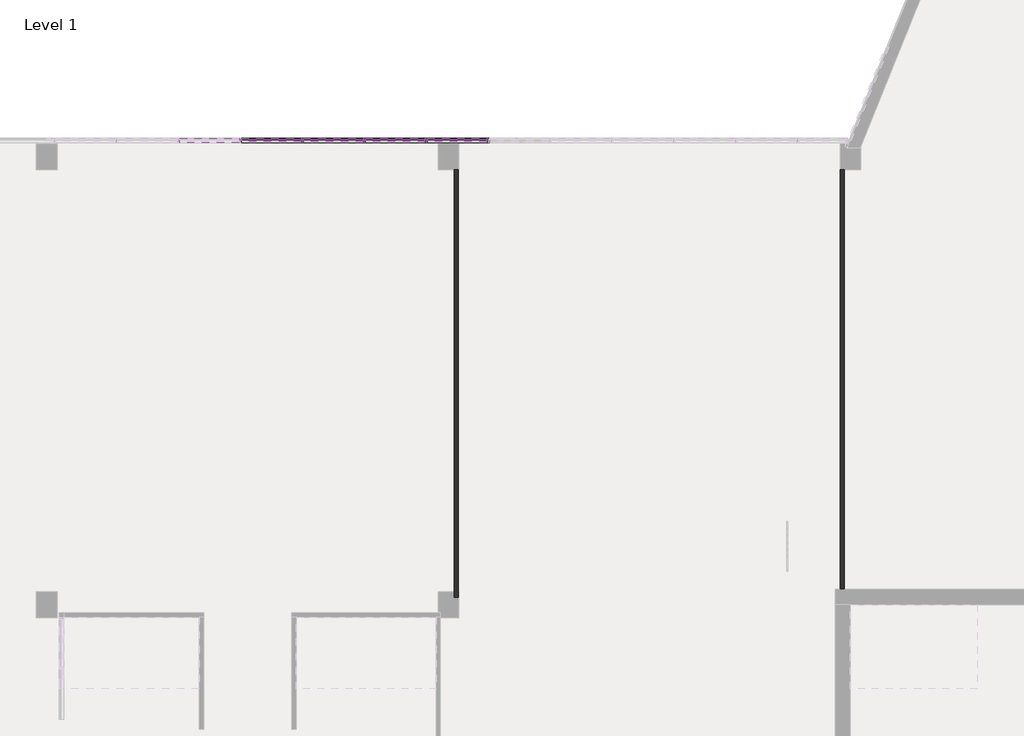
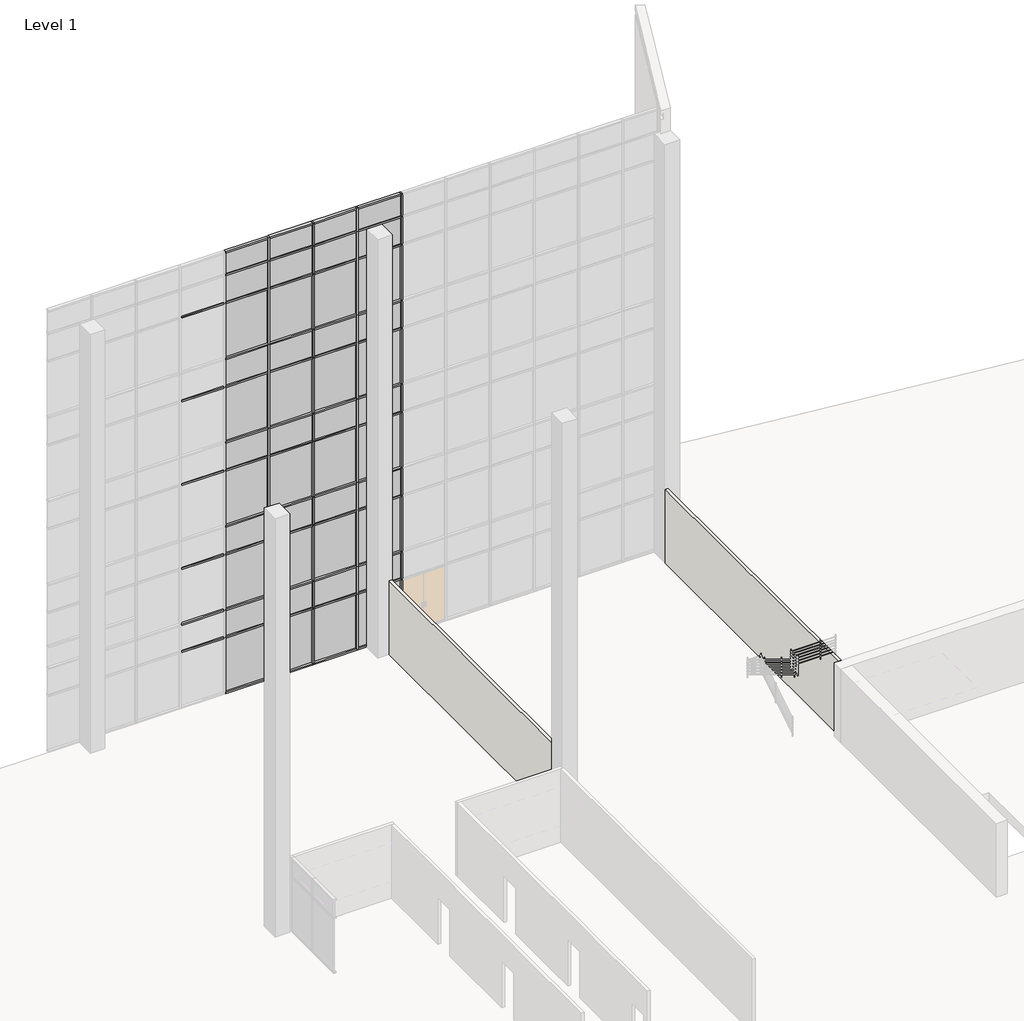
# One storey, part 13 of 23: 82 members, 44 plates, 2 walls.
"""IFC4 building model written with IfcOpenShell, lengths in millimetres."""

from ifc_helpers import new_model, si_unit, origin, origin_with_axes, place, context, project, spatial, polyline, outline, extrude, transform, mapped, element, save
from components import member_2b49869a, member_f92b8aa2, member_810865a4, member_f0fea5a5, member_6d5c3e5e, member_9764dd38, system_panel_glazed_14c75400, system_panel_solid_5dfe6f83, system_panel_solid_e25e2004, system_panel_solid_b7551183

model = new_model("IFC4")

# Units and contexts
model_context = context("Model", 3, world=origin())
ifc_project = project(units=[si_unit("LENGTHUNIT", "METRE", prefix="MILLI")], contexts=[model_context])

# Site, building, storey
site = spatial("IfcSite", under=ifc_project)
building = spatial("IfcBuilding", under=site)
storey = spatial("IfcBuildingStorey", under=building, Name="Level 1", Elevation=0.0)

# Members
placement = place(None, origin())
member_shape = member_2b49869a(model_context)
element("IfcMember", 1, ObjectType="Rectangular Mullion : 2.5\" x 5\" rectangular", at=placement, inside=storey, context=model_context, shape_type="MappedRepresentation", body=[
    mapped(member_shape, transform((-45289.0623649, 10017.7896508, 2438.4), x_axis=(1.0, 0.0, 0.0), y_axis=(0.0, -1.0, 0.0), z_axis=(0.0, 0.0, -1.0))),
])
element("IfcMember", 2, ObjectType="Rectangular Mullion : 2.5\" x 5\" rectangular", at=placement, inside=storey, context=model_context, shape_type="MappedRepresentation", body=[
    mapped(member_shape, transform((-47117.8623649, 10017.7896508, 2438.4), x_axis=(1.0, 0.0, 0.0), y_axis=(0.0, -1.0, 0.0), z_axis=(0.0, 0.0, -1.0))),
])
element("IfcMember", 3, ObjectType="Rectangular Mullion : 2.5\" x 5\" rectangular", at=placement, inside=storey, context=model_context, shape_type="MappedRepresentation", body=[
    mapped(member_shape, transform((-48946.6623649, 10017.7896508, 2438.4), x_axis=(1.0, 0.0, 0.0), y_axis=(0.0, -1.0, 0.0), z_axis=(0.0, 0.0, -1.0))),
])
member_2_shape = member_f92b8aa2(model_context)
element("IfcMember", 4, ObjectType="Rectangular Mullion : 2.5\" x 5\" rectangular", at=placement, inside=storey, context=model_context, shape_type="MappedRepresentation", body=[
    mapped(member_2_shape, transform((-45289.0623649, 10017.7896508, 18288.0), x_axis=(1.0, 0.0, 0.0), y_axis=(0.0, -1.0, 0.0), z_axis=(0.0, 0.0, -1.0))),
])
element("IfcMember", 5, ObjectType="Rectangular Mullion : 2.5\" x 5\" rectangular", at=placement, inside=storey, context=model_context, shape_type="MappedRepresentation", body=[
    mapped(member_2_shape, transform((-47117.8623649, 10017.7896508, 18288.0), x_axis=(1.0, 0.0, 0.0), y_axis=(0.0, -1.0, 0.0), z_axis=(0.0, 0.0, -1.0))),
])
element("IfcMember", 6, ObjectType="Rectangular Mullion : 2.5\" x 5\" rectangular", at=placement, inside=storey, context=model_context, shape_type="MappedRepresentation", body=[
    mapped(member_2_shape, transform((-48946.6623649, 10017.7896508, 18288.0), x_axis=(1.0, 0.0, 0.0), y_axis=(0.0, -1.0, 0.0), z_axis=(0.0, 0.0, -1.0))),
])
element("IfcMember", 7, ObjectType="Rectangular Mullion : 2.5\" x 5\" rectangular", at=placement, inside=storey, context=model_context, shape_type="MappedRepresentation", body=[
    mapped(member_2_shape, transform((-43460.2623649, 10017.7896508, 18288.0), x_axis=(1.0, 0.0, 0.0), y_axis=(0.0, -1.0, 0.0), z_axis=(0.0, 0.0, -1.0))),
])
member_3_shape = member_810865a4(model_context)
element("IfcMember", 8, ObjectType="Rectangular Mullion : 2.5\" x 5\" rectangular", at=placement, inside=storey, context=model_context, shape_type="MappedRepresentation", body=[
    mapped(member_3_shape, transform((-43460.2623649, 10017.7896508, 10972.8), x_axis=(1.0, 0.0, 0.0), y_axis=(0.0, -1.0, 0.0), z_axis=(0.0, 0.0, -1.0))),
])
element("IfcMember", 9, ObjectType="Rectangular Mullion : 2.5\" x 5\" rectangular", at=placement, inside=storey, context=model_context, shape_type="MappedRepresentation", body=[
    mapped(member_3_shape, transform((-43460.2623649, 10017.7896508, 7315.2), x_axis=(1.0, 0.0, 0.0), y_axis=(0.0, -1.0, 0.0), z_axis=(0.0, 0.0, -1.0))),
])
element("IfcMember", 10, ObjectType="Rectangular Mullion : 2.5\" x 5\" rectangular", at=placement, inside=storey, context=model_context, shape_type="MappedRepresentation", body=[
    mapped(member_3_shape, transform((-43460.2623649, 10017.7896508, 3657.6), x_axis=(1.0, 0.0, 0.0), y_axis=(0.0, -1.0, 0.0), z_axis=(0.0, 0.0, -1.0))),
])
element("IfcMember", 11, ObjectType="Rectangular Mullion : 2.5\" x 5\" rectangular", at=placement, inside=storey, context=model_context, shape_type="MappedRepresentation", body=[
    mapped(member_3_shape, transform((-45289.0623649, 10017.7896508, 14630.4), x_axis=(1.0, 0.0, 0.0), y_axis=(0.0, -1.0, 0.0), z_axis=(0.0, 0.0, -1.0))),
])
element("IfcMember", 12, ObjectType="Rectangular Mullion : 2.5\" x 5\" rectangular", at=placement, inside=storey, context=model_context, shape_type="MappedRepresentation", body=[
    mapped(member_3_shape, transform((-45289.0623649, 10017.7896508, 10972.8), x_axis=(1.0, 0.0, 0.0), y_axis=(0.0, -1.0, 0.0), z_axis=(0.0, 0.0, -1.0))),
])
element("IfcMember", 13, ObjectType="Rectangular Mullion : 2.5\" x 5\" rectangular", at=placement, inside=storey, context=model_context, shape_type="MappedRepresentation", body=[
    mapped(member_3_shape, transform((-45289.0623649, 10017.7896508, 7315.2), x_axis=(1.0, 0.0, 0.0), y_axis=(0.0, -1.0, 0.0), z_axis=(0.0, 0.0, -1.0))),
])
element("IfcMember", 14, ObjectType="Rectangular Mullion : 2.5\" x 5\" rectangular", at=placement, inside=storey, context=model_context, shape_type="MappedRepresentation", body=[
    mapped(member_3_shape, transform((-45289.0623649, 10017.7896508, 3657.6), x_axis=(1.0, 0.0, 0.0), y_axis=(0.0, -1.0, 0.0), z_axis=(0.0, 0.0, -1.0))),
])
element("IfcMember", 15, ObjectType="Rectangular Mullion : 2.5\" x 5\" rectangular", at=placement, inside=storey, context=model_context, shape_type="MappedRepresentation", body=[
    mapped(member_3_shape, transform((-47117.8623649, 10017.7896508, 14630.4), x_axis=(1.0, 0.0, 0.0), y_axis=(0.0, -1.0, 0.0), z_axis=(0.0, 0.0, -1.0))),
])
element("IfcMember", 16, ObjectType="Rectangular Mullion : 2.5\" x 5\" rectangular", at=placement, inside=storey, context=model_context, shape_type="MappedRepresentation", body=[
    mapped(member_3_shape, transform((-47117.8623649, 10017.7896508, 10972.8), x_axis=(1.0, 0.0, 0.0), y_axis=(0.0, -1.0, 0.0), z_axis=(0.0, 0.0, -1.0))),
])
element("IfcMember", 17, ObjectType="Rectangular Mullion : 2.5\" x 5\" rectangular", at=placement, inside=storey, context=model_context, shape_type="MappedRepresentation", body=[
    mapped(member_3_shape, transform((-47117.8623649, 10017.7896508, 7315.2), x_axis=(1.0, 0.0, 0.0), y_axis=(0.0, -1.0, 0.0), z_axis=(0.0, 0.0, -1.0))),
])
element("IfcMember", 18, ObjectType="Rectangular Mullion : 2.5\" x 5\" rectangular", at=placement, inside=storey, context=model_context, shape_type="MappedRepresentation", body=[
    mapped(member_3_shape, transform((-47117.8623649, 10017.7896508, 3657.6), x_axis=(1.0, 0.0, 0.0), y_axis=(0.0, -1.0, 0.0), z_axis=(0.0, 0.0, -1.0))),
])
element("IfcMember", 19, ObjectType="Rectangular Mullion : 2.5\" x 5\" rectangular", at=placement, inside=storey, context=model_context, shape_type="MappedRepresentation", body=[
    mapped(member_3_shape, transform((-48946.6623649, 10017.7896508, 14630.4), x_axis=(1.0, 0.0, 0.0), y_axis=(0.0, -1.0, 0.0), z_axis=(0.0, 0.0, -1.0))),
])
element("IfcMember", 20, ObjectType="Rectangular Mullion : 2.5\" x 5\" rectangular", at=placement, inside=storey, context=model_context, shape_type="MappedRepresentation", body=[
    mapped(member_3_shape, transform((-48946.6623649, 10017.7896508, 10972.8), x_axis=(1.0, 0.0, 0.0), y_axis=(0.0, -1.0, 0.0), z_axis=(0.0, 0.0, -1.0))),
])
element("IfcMember", 21, ObjectType="Rectangular Mullion : 2.5\" x 5\" rectangular", at=placement, inside=storey, context=model_context, shape_type="MappedRepresentation", body=[
    mapped(member_3_shape, transform((-48946.6623649, 10017.7896508, 7315.2), x_axis=(1.0, 0.0, 0.0), y_axis=(0.0, -1.0, 0.0), z_axis=(0.0, 0.0, -1.0))),
])
element("IfcMember", 22, ObjectType="Rectangular Mullion : 2.5\" x 5\" rectangular", at=placement, inside=storey, context=model_context, shape_type="MappedRepresentation", body=[
    mapped(member_3_shape, transform((-48946.6623649, 10017.7896508, 3657.6), x_axis=(1.0, 0.0, 0.0), y_axis=(0.0, -1.0, 0.0), z_axis=(0.0, 0.0, -1.0))),
])
element("IfcMember", 23, ObjectType="Rectangular Mullion : 2.5\" x 5\" rectangular", at=placement, inside=storey, context=model_context, shape_type="MappedRepresentation", body=[
    mapped(member_3_shape, transform((-43460.2623649, 10017.7896508, 14630.4), x_axis=(1.0, 0.0, 0.0), y_axis=(0.0, -1.0, 0.0), z_axis=(0.0, 0.0, -1.0))),
])
member_4_shape = member_f0fea5a5(model_context)
element("IfcMember", 24, ObjectType="Rectangular Mullion : 2.5\" x 5\" rectangular", at=placement, inside=storey, context=model_context, shape_type="MappedRepresentation", body=[
    mapped(member_4_shape, transform((-45289.0623649, 10017.7896508, 0.0), x_axis=(1.0, 0.0, 0.0), y_axis=(0.0, -1.0, 0.0), z_axis=(0.0, 0.0, -1.0))),
])
element("IfcMember", 25, ObjectType="Rectangular Mullion : 2.5\" x 5\" rectangular", at=placement, inside=storey, context=model_context, shape_type="MappedRepresentation", body=[
    mapped(member_4_shape, transform((-47117.8623649, 10017.7896508, 0.0), x_axis=(1.0, 0.0, 0.0), y_axis=(0.0, -1.0, 0.0), z_axis=(0.0, 0.0, -1.0))),
])
element("IfcMember", 26, ObjectType="Rectangular Mullion : 2.5\" x 5\" rectangular", at=placement, inside=storey, context=model_context, shape_type="MappedRepresentation", body=[
    mapped(member_4_shape, transform((-48946.6623649, 10017.7896508, 0.0), x_axis=(1.0, 0.0, 0.0), y_axis=(0.0, -1.0, 0.0), z_axis=(0.0, 0.0, -1.0))),
])
element("IfcMember", 27, ObjectType="Rectangular Mullion : 2.5\" x 5\" rectangular", at=placement, inside=storey, context=model_context, shape_type="MappedRepresentation", body=[
    mapped(member_4_shape, transform((-43460.2623649, 10017.7896508, 0.0), x_axis=(1.0, 0.0, 0.0), y_axis=(0.0, -1.0, 0.0), z_axis=(0.0, 0.0, -1.0))),
])
element("IfcMember", 28, ObjectType="Rectangular Mullion : 2.5\" x 5\" rectangular", at=placement, inside=storey, context=model_context, shape_type="MappedRepresentation", body=[
    mapped(member_shape, transform((-43460.2623649, 10017.7896508, 2438.4), x_axis=(1.0, 0.0, 0.0), y_axis=(0.0, -1.0, 0.0), z_axis=(0.0, 0.0, -1.0))),
])
member_5_shape = member_6d5c3e5e(model_context)
element("IfcMember", 29, ObjectType="Rectangular Mullion : 2.5\" x 5\" rectangular", at=placement, inside=storey, context=model_context, shape_type="MappedRepresentation", body=[
    mapped(member_5_shape, transform((-43492.0123649, 10017.7896508, 19304.0), x_axis=(0.0, 0.0, 1.0), y_axis=(0.0, -1.0, 0.0), z_axis=(1.0, 0.0, 0.0))),
])
element("IfcMember", 30, ObjectType="Rectangular Mullion : 2.5\" x 5\" rectangular", at=placement, inside=storey, context=model_context, shape_type="MappedRepresentation", body=[
    mapped(member_5_shape, transform((-45320.8123649, 10017.7896508, 19304.0), x_axis=(0.0, 0.0, 1.0), y_axis=(0.0, -1.0, 0.0), z_axis=(1.0, 0.0, 0.0))),
])
element("IfcMember", 31, ObjectType="Rectangular Mullion : 2.5\" x 5\" rectangular", at=placement, inside=storey, context=model_context, shape_type="MappedRepresentation", body=[
    mapped(member_5_shape, transform((-47149.6123649, 10017.7896508, 19304.0), x_axis=(0.0, 0.0, 1.0), y_axis=(0.0, -1.0, 0.0), z_axis=(1.0, 0.0, 0.0))),
])
element("IfcMember", 32, ObjectType="Rectangular Mullion : 2.5\" x 5\" rectangular", at=placement, inside=storey, context=model_context, shape_type="MappedRepresentation", body=[
    mapped(member_5_shape, transform((-48978.4123649, 10017.7896508, 19304.0), x_axis=(0.0, 0.0, 1.0), y_axis=(0.0, -1.0, 0.0), z_axis=(1.0, 0.0, 0.0))),
])
member_6_shape = member_9764dd38(model_context)
element("IfcMember", 33, ObjectType="Rectangular Mullion : 2.5\" x 5\" rectangular", at=placement, inside=storey, context=model_context, shape_type="MappedRepresentation", body=[
    mapped(member_6_shape, transform((-43492.0123649, 10017.7896508, 17068.8), x_axis=(0.0, 0.0, 1.0), y_axis=(0.0, -1.0, 0.0), z_axis=(1.0, 0.0, 0.0))),
])
element("IfcMember", 34, ObjectType="Rectangular Mullion : 2.5\" x 5\" rectangular", at=placement, inside=storey, context=model_context, shape_type="MappedRepresentation", body=[
    mapped(member_6_shape, transform((-45320.8123649, 10017.7896508, 17068.8), x_axis=(0.0, 0.0, 1.0), y_axis=(0.0, -1.0, 0.0), z_axis=(1.0, 0.0, 0.0))),
])
element("IfcMember", 35, ObjectType="Rectangular Mullion : 2.5\" x 5\" rectangular", at=placement, inside=storey, context=model_context, shape_type="MappedRepresentation", body=[
    mapped(member_6_shape, transform((-47149.6123649, 10017.7896508, 17068.8), x_axis=(0.0, 0.0, 1.0), y_axis=(0.0, -1.0, 0.0), z_axis=(1.0, 0.0, 0.0))),
])
element("IfcMember", 36, ObjectType="Rectangular Mullion : 2.5\" x 5\" rectangular", at=placement, inside=storey, context=model_context, shape_type="MappedRepresentation", body=[
    mapped(member_6_shape, transform((-48978.4123649, 10017.7896508, 17068.8), x_axis=(0.0, 0.0, 1.0), y_axis=(0.0, -1.0, 0.0), z_axis=(1.0, 0.0, 0.0))),
])
element("IfcMember", 37, ObjectType="Rectangular Mullion : 2.5\" x 5\" rectangular", at=placement, inside=storey, context=model_context, shape_type="MappedRepresentation", body=[
    mapped(member_6_shape, transform((-50807.2123649, 10017.7896508, 17068.8), x_axis=(0.0, 0.0, 1.0), y_axis=(0.0, -1.0, 0.0), z_axis=(1.0, 0.0, 0.0))),
])
element("IfcMember", 38, ObjectType="Rectangular Mullion : 2.5\" x 5\" rectangular", at=placement, inside=storey, context=model_context, shape_type="MappedRepresentation", body=[
    mapped(member_6_shape, transform((-43492.0123649, 10017.7896508, 13411.2), x_axis=(0.0, 0.0, 1.0), y_axis=(0.0, -1.0, 0.0), z_axis=(1.0, 0.0, 0.0))),
])
element("IfcMember", 39, ObjectType="Rectangular Mullion : 2.5\" x 5\" rectangular", at=placement, inside=storey, context=model_context, shape_type="MappedRepresentation", body=[
    mapped(member_6_shape, transform((-45320.8123649, 10017.7896508, 13411.2), x_axis=(0.0, 0.0, 1.0), y_axis=(0.0, -1.0, 0.0), z_axis=(1.0, 0.0, 0.0))),
])
element("IfcMember", 40, ObjectType="Rectangular Mullion : 2.5\" x 5\" rectangular", at=placement, inside=storey, context=model_context, shape_type="MappedRepresentation", body=[
    mapped(member_6_shape, transform((-47149.6123649, 10017.7896508, 13411.2), x_axis=(0.0, 0.0, 1.0), y_axis=(0.0, -1.0, 0.0), z_axis=(1.0, 0.0, 0.0))),
])
element("IfcMember", 41, ObjectType="Rectangular Mullion : 2.5\" x 5\" rectangular", at=placement, inside=storey, context=model_context, shape_type="MappedRepresentation", body=[
    mapped(member_6_shape, transform((-48978.4123649, 10017.7896508, 13411.2), x_axis=(0.0, 0.0, 1.0), y_axis=(0.0, -1.0, 0.0), z_axis=(1.0, 0.0, 0.0))),
])
element("IfcMember", 42, ObjectType="Rectangular Mullion : 2.5\" x 5\" rectangular", at=placement, inside=storey, context=model_context, shape_type="MappedRepresentation", body=[
    mapped(member_6_shape, transform((-50807.2123649, 10017.7896508, 13411.2), x_axis=(0.0, 0.0, 1.0), y_axis=(0.0, -1.0, 0.0), z_axis=(1.0, 0.0, 0.0))),
])
element("IfcMember", 43, ObjectType="Rectangular Mullion : 2.5\" x 5\" rectangular", at=placement, inside=storey, context=model_context, shape_type="MappedRepresentation", body=[
    mapped(member_6_shape, transform((-43492.0123649, 10017.7896508, 9753.6), x_axis=(0.0, 0.0, 1.0), y_axis=(0.0, -1.0, 0.0), z_axis=(1.0, 0.0, 0.0))),
])
element("IfcMember", 44, ObjectType="Rectangular Mullion : 2.5\" x 5\" rectangular", at=placement, inside=storey, context=model_context, shape_type="MappedRepresentation", body=[
    mapped(member_6_shape, transform((-45320.8123649, 10017.7896508, 9753.6), x_axis=(0.0, 0.0, 1.0), y_axis=(0.0, -1.0, 0.0), z_axis=(1.0, 0.0, 0.0))),
])
element("IfcMember", 45, ObjectType="Rectangular Mullion : 2.5\" x 5\" rectangular", at=placement, inside=storey, context=model_context, shape_type="MappedRepresentation", body=[
    mapped(member_6_shape, transform((-47149.6123649, 10017.7896508, 9753.6), x_axis=(0.0, 0.0, 1.0), y_axis=(0.0, -1.0, 0.0), z_axis=(1.0, 0.0, 0.0))),
])
element("IfcMember", 46, ObjectType="Rectangular Mullion : 2.5\" x 5\" rectangular", at=placement, inside=storey, context=model_context, shape_type="MappedRepresentation", body=[
    mapped(member_6_shape, transform((-48978.4123649, 10017.7896508, 9753.6), x_axis=(0.0, 0.0, 1.0), y_axis=(0.0, -1.0, 0.0), z_axis=(1.0, 0.0, 0.0))),
])
element("IfcMember", 47, ObjectType="Rectangular Mullion : 2.5\" x 5\" rectangular", at=placement, inside=storey, context=model_context, shape_type="MappedRepresentation", body=[
    mapped(member_6_shape, transform((-50807.2123649, 10017.7896508, 9753.6), x_axis=(0.0, 0.0, 1.0), y_axis=(0.0, -1.0, 0.0), z_axis=(1.0, 0.0, 0.0))),
])
element("IfcMember", 48, ObjectType="Rectangular Mullion : 2.5\" x 5\" rectangular", at=placement, inside=storey, context=model_context, shape_type="MappedRepresentation", body=[
    mapped(member_6_shape, transform((-43492.0123649, 10017.7896508, 6096.0), x_axis=(0.0, 0.0, 1.0), y_axis=(0.0, -1.0, 0.0), z_axis=(1.0, 0.0, 0.0))),
])
element("IfcMember", 49, ObjectType="Rectangular Mullion : 2.5\" x 5\" rectangular", at=placement, inside=storey, context=model_context, shape_type="MappedRepresentation", body=[
    mapped(member_6_shape, transform((-45320.8123649, 10017.7896508, 6096.0), x_axis=(0.0, 0.0, 1.0), y_axis=(0.0, -1.0, 0.0), z_axis=(1.0, 0.0, 0.0))),
])
element("IfcMember", 50, ObjectType="Rectangular Mullion : 2.5\" x 5\" rectangular", at=placement, inside=storey, context=model_context, shape_type="MappedRepresentation", body=[
    mapped(member_6_shape, transform((-47149.6123649, 10017.7896508, 6096.0), x_axis=(0.0, 0.0, 1.0), y_axis=(0.0, -1.0, 0.0), z_axis=(1.0, 0.0, 0.0))),
])
element("IfcMember", 51, ObjectType="Rectangular Mullion : 2.5\" x 5\" rectangular", at=placement, inside=storey, context=model_context, shape_type="MappedRepresentation", body=[
    mapped(member_6_shape, transform((-48978.4123649, 10017.7896508, 6096.0), x_axis=(0.0, 0.0, 1.0), y_axis=(0.0, -1.0, 0.0), z_axis=(1.0, 0.0, 0.0))),
])
element("IfcMember", 52, ObjectType="Rectangular Mullion : 2.5\" x 5\" rectangular", at=placement, inside=storey, context=model_context, shape_type="MappedRepresentation", body=[
    mapped(member_6_shape, transform((-50807.2123649, 10017.7896508, 6096.0), x_axis=(0.0, 0.0, 1.0), y_axis=(0.0, -1.0, 0.0), z_axis=(1.0, 0.0, 0.0))),
])
element("IfcMember", 53, ObjectType="Rectangular Mullion : 2.5\" x 5\" rectangular", at=placement, inside=storey, context=model_context, shape_type="MappedRepresentation", body=[
    mapped(member_6_shape, transform((-43492.0123649, 10017.7896508, 2470.15), x_axis=(0.0, 0.0, 1.0), y_axis=(0.0, -1.0, 0.0), z_axis=(1.0, 0.0, 0.0))),
])
element("IfcMember", 54, ObjectType="Rectangular Mullion : 2.5\" x 5\" rectangular", at=placement, inside=storey, context=model_context, shape_type="MappedRepresentation", body=[
    mapped(member_6_shape, transform((-45320.8123649, 10017.7896508, 2470.15), x_axis=(0.0, 0.0, 1.0), y_axis=(0.0, -1.0, 0.0), z_axis=(1.0, 0.0, 0.0))),
])
element("IfcMember", 55, ObjectType="Rectangular Mullion : 2.5\" x 5\" rectangular", at=placement, inside=storey, context=model_context, shape_type="MappedRepresentation", body=[
    mapped(member_6_shape, transform((-47149.6123649, 10017.7896508, 2470.15), x_axis=(0.0, 0.0, 1.0), y_axis=(0.0, -1.0, 0.0), z_axis=(1.0, 0.0, 0.0))),
])
element("IfcMember", 56, ObjectType="Rectangular Mullion : 2.5\" x 5\" rectangular", at=placement, inside=storey, context=model_context, shape_type="MappedRepresentation", body=[
    mapped(member_6_shape, transform((-48978.4123649, 10017.7896508, 2470.15), x_axis=(0.0, 0.0, 1.0), y_axis=(0.0, -1.0, 0.0), z_axis=(1.0, 0.0, 0.0))),
])
element("IfcMember", 57, ObjectType="Rectangular Mullion : 2.5\" x 5\" rectangular", at=placement, inside=storey, context=model_context, shape_type="MappedRepresentation", body=[
    mapped(member_6_shape, transform((-50807.2123649, 10017.7896508, 2470.15), x_axis=(0.0, 0.0, 1.0), y_axis=(0.0, -1.0, 0.0), z_axis=(1.0, 0.0, 0.0))),
])
element("IfcMember", 58, ObjectType="Rectangular Mullion : 2.5\" x 5\" rectangular", at=placement, inside=storey, context=model_context, shape_type="MappedRepresentation", body=[
    mapped(member_5_shape, transform((-45257.3123649, 10017.7896508, 0.0), x_axis=(0.0, 0.0, -1.0), y_axis=(0.0, -1.0, 0.0), z_axis=(-1.0, 0.0, 0.0))),
])
element("IfcMember", 59, ObjectType="Rectangular Mullion : 2.5\" x 5\" rectangular", at=placement, inside=storey, context=model_context, shape_type="MappedRepresentation", body=[
    mapped(member_5_shape, transform((-47086.1123649, 10017.7896508, 0.0), x_axis=(0.0, 0.0, -1.0), y_axis=(0.0, -1.0, 0.0), z_axis=(-1.0, 0.0, 0.0))),
])
element("IfcMember", 60, ObjectType="Rectangular Mullion : 2.5\" x 5\" rectangular", at=placement, inside=storey, context=model_context, shape_type="MappedRepresentation", body=[
    mapped(member_5_shape, transform((-48914.9123649, 10017.7896508, 0.0), x_axis=(0.0, 0.0, -1.0), y_axis=(0.0, -1.0, 0.0), z_axis=(-1.0, 0.0, 0.0))),
])
element("IfcMember", 61, ObjectType="Rectangular Mullion : 2.5\" x 5\" rectangular", at=placement, inside=storey, context=model_context, shape_type="MappedRepresentation", body=[
    mapped(member_5_shape, transform((-50743.7123649, 10017.7896508, 0.0), x_axis=(0.0, 0.0, -1.0), y_axis=(0.0, -1.0, 0.0), z_axis=(-1.0, 0.0, 0.0))),
])
element("IfcMember", 62, ObjectType="Rectangular Mullion : 2.5\" x 5\" rectangular", at=placement, inside=storey, context=model_context, shape_type="MappedRepresentation", body=[
    mapped(member_6_shape, transform((-43492.0123649, 10017.7896508, 10972.8), x_axis=(0.0, 0.0, 1.0), y_axis=(0.0, -1.0, 0.0), z_axis=(1.0, 0.0, 0.0))),
])
element("IfcMember", 63, ObjectType="Rectangular Mullion : 2.5\" x 5\" rectangular", at=placement, inside=storey, context=model_context, shape_type="MappedRepresentation", body=[
    mapped(member_6_shape, transform((-45320.8123649, 10017.7896508, 10972.8), x_axis=(0.0, 0.0, 1.0), y_axis=(0.0, -1.0, 0.0), z_axis=(1.0, 0.0, 0.0))),
])
element("IfcMember", 64, ObjectType="Rectangular Mullion : 2.5\" x 5\" rectangular", at=placement, inside=storey, context=model_context, shape_type="MappedRepresentation", body=[
    mapped(member_6_shape, transform((-47149.6123649, 10017.7896508, 10972.8), x_axis=(0.0, 0.0, 1.0), y_axis=(0.0, -1.0, 0.0), z_axis=(1.0, 0.0, 0.0))),
])
element("IfcMember", 65, ObjectType="Rectangular Mullion : 2.5\" x 5\" rectangular", at=placement, inside=storey, context=model_context, shape_type="MappedRepresentation", body=[
    mapped(member_6_shape, transform((-48978.4123649, 10017.7896508, 10972.8), x_axis=(0.0, 0.0, 1.0), y_axis=(0.0, -1.0, 0.0), z_axis=(1.0, 0.0, 0.0))),
])
element("IfcMember", 66, ObjectType="Rectangular Mullion : 2.5\" x 5\" rectangular", at=placement, inside=storey, context=model_context, shape_type="MappedRepresentation", body=[
    mapped(member_6_shape, transform((-43492.0123649, 10017.7896508, 7315.2), x_axis=(0.0, 0.0, 1.0), y_axis=(0.0, -1.0, 0.0), z_axis=(1.0, 0.0, 0.0))),
])
element("IfcMember", 67, ObjectType="Rectangular Mullion : 2.5\" x 5\" rectangular", at=placement, inside=storey, context=model_context, shape_type="MappedRepresentation", body=[
    mapped(member_6_shape, transform((-45320.8123649, 10017.7896508, 7315.2), x_axis=(0.0, 0.0, 1.0), y_axis=(0.0, -1.0, 0.0), z_axis=(1.0, 0.0, 0.0))),
])
element("IfcMember", 68, ObjectType="Rectangular Mullion : 2.5\" x 5\" rectangular", at=placement, inside=storey, context=model_context, shape_type="MappedRepresentation", body=[
    mapped(member_6_shape, transform((-47149.6123649, 10017.7896508, 7315.2), x_axis=(0.0, 0.0, 1.0), y_axis=(0.0, -1.0, 0.0), z_axis=(1.0, 0.0, 0.0))),
])
element("IfcMember", 69, ObjectType="Rectangular Mullion : 2.5\" x 5\" rectangular", at=placement, inside=storey, context=model_context, shape_type="MappedRepresentation", body=[
    mapped(member_6_shape, transform((-48978.4123649, 10017.7896508, 7315.2), x_axis=(0.0, 0.0, 1.0), y_axis=(0.0, -1.0, 0.0), z_axis=(1.0, 0.0, 0.0))),
])
element("IfcMember", 70, ObjectType="Rectangular Mullion : 2.5\" x 5\" rectangular", at=placement, inside=storey, context=model_context, shape_type="MappedRepresentation", body=[
    mapped(member_6_shape, transform((-43492.0123649, 10017.7896508, 18288.0), x_axis=(0.0, 0.0, 1.0), y_axis=(0.0, -1.0, 0.0), z_axis=(1.0, 0.0, 0.0))),
])
element("IfcMember", 71, ObjectType="Rectangular Mullion : 2.5\" x 5\" rectangular", at=placement, inside=storey, context=model_context, shape_type="MappedRepresentation", body=[
    mapped(member_6_shape, transform((-45320.8123649, 10017.7896508, 18288.0), x_axis=(0.0, 0.0, 1.0), y_axis=(0.0, -1.0, 0.0), z_axis=(1.0, 0.0, 0.0))),
])
element("IfcMember", 72, ObjectType="Rectangular Mullion : 2.5\" x 5\" rectangular", at=placement, inside=storey, context=model_context, shape_type="MappedRepresentation", body=[
    mapped(member_6_shape, transform((-47149.6123649, 10017.7896508, 18288.0), x_axis=(0.0, 0.0, 1.0), y_axis=(0.0, -1.0, 0.0), z_axis=(1.0, 0.0, 0.0))),
])
element("IfcMember", 73, ObjectType="Rectangular Mullion : 2.5\" x 5\" rectangular", at=placement, inside=storey, context=model_context, shape_type="MappedRepresentation", body=[
    mapped(member_6_shape, transform((-48978.4123649, 10017.7896508, 18288.0), x_axis=(0.0, 0.0, 1.0), y_axis=(0.0, -1.0, 0.0), z_axis=(1.0, 0.0, 0.0))),
])
element("IfcMember", 74, ObjectType="Rectangular Mullion : 2.5\" x 5\" rectangular", at=placement, inside=storey, context=model_context, shape_type="MappedRepresentation", body=[
    mapped(member_6_shape, transform((-43492.0123649, 10017.7896508, 14630.4), x_axis=(0.0, 0.0, 1.0), y_axis=(0.0, -1.0, 0.0), z_axis=(1.0, 0.0, 0.0))),
])
element("IfcMember", 75, ObjectType="Rectangular Mullion : 2.5\" x 5\" rectangular", at=placement, inside=storey, context=model_context, shape_type="MappedRepresentation", body=[
    mapped(member_6_shape, transform((-45320.8123649, 10017.7896508, 14630.4), x_axis=(0.0, 0.0, 1.0), y_axis=(0.0, -1.0, 0.0), z_axis=(1.0, 0.0, 0.0))),
])
element("IfcMember", 76, ObjectType="Rectangular Mullion : 2.5\" x 5\" rectangular", at=placement, inside=storey, context=model_context, shape_type="MappedRepresentation", body=[
    mapped(member_6_shape, transform((-47149.6123649, 10017.7896508, 14630.4), x_axis=(0.0, 0.0, 1.0), y_axis=(0.0, -1.0, 0.0), z_axis=(1.0, 0.0, 0.0))),
])
element("IfcMember", 77, ObjectType="Rectangular Mullion : 2.5\" x 5\" rectangular", at=placement, inside=storey, context=model_context, shape_type="MappedRepresentation", body=[
    mapped(member_6_shape, transform((-48978.4123649, 10017.7896508, 14630.4), x_axis=(0.0, 0.0, 1.0), y_axis=(0.0, -1.0, 0.0), z_axis=(1.0, 0.0, 0.0))),
])
element("IfcMember", 78, ObjectType="Rectangular Mullion : 2.5\" x 5\" rectangular", at=placement, inside=storey, context=model_context, shape_type="MappedRepresentation", body=[
    mapped(member_6_shape, transform((-43492.0123649, 10017.7896508, 3657.6), x_axis=(0.0, 0.0, 1.0), y_axis=(0.0, -1.0, 0.0), z_axis=(1.0, 0.0, 0.0))),
])
element("IfcMember", 79, ObjectType="Rectangular Mullion : 2.5\" x 5\" rectangular", at=placement, inside=storey, context=model_context, shape_type="MappedRepresentation", body=[
    mapped(member_6_shape, transform((-48978.4123649, 10017.7896508, 3657.6), x_axis=(0.0, 0.0, 1.0), y_axis=(0.0, -1.0, 0.0), z_axis=(1.0, 0.0, 0.0))),
])
element("IfcMember", 80, ObjectType="Rectangular Mullion : 2.5\" x 5\" rectangular", at=placement, inside=storey, context=model_context, shape_type="MappedRepresentation", body=[
    mapped(member_6_shape, transform((-50807.2123649, 10017.7896508, 3657.6), x_axis=(0.0, 0.0, 1.0), y_axis=(0.0, -1.0, 0.0), z_axis=(1.0, 0.0, 0.0))),
])
element("IfcMember", 81, ObjectType="Rectangular Mullion : 2.5\" x 5\" rectangular", at=placement, inside=storey, context=model_context, shape_type="MappedRepresentation", body=[
    mapped(member_6_shape, transform((-47149.6123649, 10017.7896508, 3657.6), x_axis=(0.0, 0.0, 1.0), y_axis=(0.0, -1.0, 0.0), z_axis=(1.0, 0.0, 0.0))),
])
element("IfcMember", 82, ObjectType="Rectangular Mullion : 2.5\" x 5\" rectangular", at=placement, inside=storey, context=model_context, shape_type="MappedRepresentation", body=[
    mapped(member_6_shape, transform((-45320.8123649, 10017.7896508, 3657.6), x_axis=(0.0, 0.0, 1.0), y_axis=(0.0, -1.0, 0.0), z_axis=(1.0, 0.0, 0.0))),
])

# Plates
system_panel_glazed_shape = system_panel_glazed_14c75400(model_context)
element("IfcPlate", 83, ObjectType="System Panel : Glazed", at=placement, inside=storey, context=model_context, shape_type="MappedRepresentation", body=[
    mapped(system_panel_glazed_shape, transform((-44374.6623649, 10017.7896508, 14662.15), x_axis=(1.0, 0.0, 0.0), y_axis=(0.0, 1.0, 0.0), z_axis=(0.0, 0.0, 1.0))),
])
element("IfcPlate", 84, ObjectType="System Panel : Glazed", at=placement, inside=storey, context=model_context, shape_type="MappedRepresentation", body=[
    mapped(system_panel_glazed_shape, transform((-46203.4623649, 10017.7896508, 14662.15), x_axis=(1.0, 0.0, 0.0), y_axis=(0.0, 1.0, 0.0), z_axis=(0.0, 0.0, 1.0))),
])
element("IfcPlate", 85, ObjectType="System Panel : Glazed", at=placement, inside=storey, context=model_context, shape_type="MappedRepresentation", body=[
    mapped(system_panel_glazed_shape, transform((-48032.2623649, 10017.7896508, 14662.15), x_axis=(1.0, 0.0, 0.0), y_axis=(0.0, 1.0, 0.0), z_axis=(0.0, 0.0, 1.0))),
])
element("IfcPlate", 86, ObjectType="System Panel : Glazed", at=placement, inside=storey, context=model_context, shape_type="MappedRepresentation", body=[
    mapped(system_panel_glazed_shape, transform((-49861.0623649, 10017.7896508, 14662.15), x_axis=(1.0, 0.0, 0.0), y_axis=(0.0, 1.0, 0.0), z_axis=(0.0, 0.0, 1.0))),
])
element("IfcPlate", 87, ObjectType="System Panel : Glazed", at=placement, inside=storey, context=model_context, shape_type="MappedRepresentation", body=[
    mapped(system_panel_glazed_shape, transform((-44374.6623649, 10017.7896508, 11004.55), x_axis=(1.0, 0.0, 0.0), y_axis=(0.0, 1.0, 0.0), z_axis=(0.0, 0.0, 1.0))),
])
element("IfcPlate", 88, ObjectType="System Panel : Glazed", at=placement, inside=storey, context=model_context, shape_type="MappedRepresentation", body=[
    mapped(system_panel_glazed_shape, transform((-46203.4623649, 10017.7896508, 11004.55), x_axis=(1.0, 0.0, 0.0), y_axis=(0.0, 1.0, 0.0), z_axis=(0.0, 0.0, 1.0))),
])
element("IfcPlate", 89, ObjectType="System Panel : Glazed", at=placement, inside=storey, context=model_context, shape_type="MappedRepresentation", body=[
    mapped(system_panel_glazed_shape, transform((-48032.2623649, 10017.7896508, 11004.55), x_axis=(1.0, 0.0, 0.0), y_axis=(0.0, 1.0, 0.0), z_axis=(0.0, 0.0, 1.0))),
])
element("IfcPlate", 90, ObjectType="System Panel : Glazed", at=placement, inside=storey, context=model_context, shape_type="MappedRepresentation", body=[
    mapped(system_panel_glazed_shape, transform((-49861.0623649, 10017.7896508, 11004.55), x_axis=(1.0, 0.0, 0.0), y_axis=(0.0, 1.0, 0.0), z_axis=(0.0, 0.0, 1.0))),
])
element("IfcPlate", 91, ObjectType="System Panel : Glazed", at=placement, inside=storey, context=model_context, shape_type="MappedRepresentation", body=[
    mapped(system_panel_glazed_shape, transform((-44374.6623649, 10017.7896508, 7346.95), x_axis=(1.0, 0.0, 0.0), y_axis=(0.0, 1.0, 0.0), z_axis=(0.0, 0.0, 1.0))),
])
element("IfcPlate", 92, ObjectType="System Panel : Glazed", at=placement, inside=storey, context=model_context, shape_type="MappedRepresentation", body=[
    mapped(system_panel_glazed_shape, transform((-46203.4623649, 10017.7896508, 7346.95), x_axis=(1.0, 0.0, 0.0), y_axis=(0.0, 1.0, 0.0), z_axis=(0.0, 0.0, 1.0))),
])
element("IfcPlate", 93, ObjectType="System Panel : Glazed", at=placement, inside=storey, context=model_context, shape_type="MappedRepresentation", body=[
    mapped(system_panel_glazed_shape, transform((-48032.2623649, 10017.7896508, 7346.95), x_axis=(1.0, 0.0, 0.0), y_axis=(0.0, 1.0, 0.0), z_axis=(0.0, 0.0, 1.0))),
])
element("IfcPlate", 94, ObjectType="System Panel : Glazed", at=placement, inside=storey, context=model_context, shape_type="MappedRepresentation", body=[
    mapped(system_panel_glazed_shape, transform((-49861.0623649, 10017.7896508, 7346.95), x_axis=(1.0, 0.0, 0.0), y_axis=(0.0, 1.0, 0.0), z_axis=(0.0, 0.0, 1.0))),
])
element("IfcPlate", 95, ObjectType="System Panel : Glazed", at=placement, inside=storey, context=model_context, shape_type="MappedRepresentation", body=[
    mapped(system_panel_glazed_shape, transform((-44374.6623649, 10017.7896508, 3689.35), x_axis=(1.0, 0.0, 0.0), y_axis=(0.0, 1.0, 0.0), z_axis=(0.0, 0.0, 1.0))),
])
element("IfcPlate", 96, ObjectType="System Panel : Glazed", at=placement, inside=storey, context=model_context, shape_type="MappedRepresentation", body=[
    mapped(system_panel_glazed_shape, transform((-46203.4623649, 10017.7896508, 3689.35), x_axis=(1.0, 0.0, 0.0), y_axis=(0.0, 1.0, 0.0), z_axis=(0.0, 0.0, 1.0))),
])
element("IfcPlate", 97, ObjectType="System Panel : Glazed", at=placement, inside=storey, context=model_context, shape_type="MappedRepresentation", body=[
    mapped(system_panel_glazed_shape, transform((-48032.2623649, 10017.7896508, 3689.35), x_axis=(1.0, 0.0, 0.0), y_axis=(0.0, 1.0, 0.0), z_axis=(0.0, 0.0, 1.0))),
])
element("IfcPlate", 98, ObjectType="System Panel : Glazed", at=placement, inside=storey, context=model_context, shape_type="MappedRepresentation", body=[
    mapped(system_panel_glazed_shape, transform((-49861.0623649, 10017.7896508, 3689.35), x_axis=(1.0, 0.0, 0.0), y_axis=(0.0, 1.0, 0.0), z_axis=(0.0, 0.0, 1.0))),
])
element("IfcPlate", 99, ObjectType="System Panel : Glazed", at=placement, inside=storey, context=model_context, shape_type="MappedRepresentation", body=[
    mapped(system_panel_glazed_shape, transform((-44374.6623649, 10017.7896508, 63.5), x_axis=(1.0, 0.0, 0.0), y_axis=(0.0, 1.0, 0.0), z_axis=(0.0, 0.0, 1.0))),
])
element("IfcPlate", 100, ObjectType="System Panel : Glazed", at=placement, inside=storey, context=model_context, shape_type="MappedRepresentation", body=[
    mapped(system_panel_glazed_shape, transform((-46203.4623649, 10017.7896508, 63.5), x_axis=(1.0, 0.0, 0.0), y_axis=(0.0, 1.0, 0.0), z_axis=(0.0, 0.0, 1.0))),
])
element("IfcPlate", 101, ObjectType="System Panel : Glazed", at=placement, inside=storey, context=model_context, shape_type="MappedRepresentation", body=[
    mapped(system_panel_glazed_shape, transform((-48032.2623649, 10017.7896508, 63.5), x_axis=(1.0, 0.0, 0.0), y_axis=(0.0, 1.0, 0.0), z_axis=(0.0, 0.0, 1.0))),
])
element("IfcPlate", 102, ObjectType="System Panel : Glazed", at=placement, inside=storey, context=model_context, shape_type="MappedRepresentation", body=[
    mapped(system_panel_glazed_shape, transform((-49861.0623649, 10017.7896508, 63.5), x_axis=(1.0, 0.0, 0.0), y_axis=(0.0, 1.0, 0.0), z_axis=(0.0, 0.0, 1.0))),
])
system_panel_solid_shape = system_panel_solid_5dfe6f83(model_context)
element("IfcPlate", 103, ObjectType="System Panel : Solid", at=placement, inside=storey, context=model_context, shape_type="MappedRepresentation", body=[
    mapped(system_panel_solid_shape, transform((-49861.0623649, 10017.7896508, 18319.75), x_axis=(1.0, 0.0, 0.0), y_axis=(0.0, 1.0, 0.0), z_axis=(0.0, 0.0, 1.0))),
])
element("IfcPlate", 104, ObjectType="System Panel : Solid", at=placement, inside=storey, context=model_context, shape_type="MappedRepresentation", body=[
    mapped(system_panel_solid_shape, transform((-48032.2623649, 10017.7896508, 18319.75), x_axis=(1.0, 0.0, 0.0), y_axis=(0.0, 1.0, 0.0), z_axis=(0.0, 0.0, 1.0))),
])
element("IfcPlate", 105, ObjectType="System Panel : Solid", at=placement, inside=storey, context=model_context, shape_type="MappedRepresentation", body=[
    mapped(system_panel_solid_shape, transform((-46203.4623649, 10017.7896508, 18319.75), x_axis=(1.0, 0.0, 0.0), y_axis=(0.0, 1.0, 0.0), z_axis=(0.0, 0.0, 1.0))),
])
element("IfcPlate", 106, ObjectType="System Panel : Solid", at=placement, inside=storey, context=model_context, shape_type="MappedRepresentation", body=[
    mapped(system_panel_solid_shape, transform((-44374.6623649, 10017.7896508, 18319.75), x_axis=(1.0, 0.0, 0.0), y_axis=(0.0, 1.0, 0.0), z_axis=(0.0, 0.0, 1.0))),
])
system_panel_solid_2_shape = system_panel_solid_e25e2004(model_context)
element("IfcPlate", 107, ObjectType="System Panel : Solid", at=placement, inside=storey, context=model_context, shape_type="MappedRepresentation", body=[
    mapped(system_panel_solid_2_shape, transform((-44374.6623649, 10017.7896508, 17100.55), x_axis=(1.0, 0.0, 0.0), y_axis=(0.0, 1.0, 0.0), z_axis=(0.0, 0.0, 1.0))),
])
element("IfcPlate", 108, ObjectType="System Panel : Solid", at=placement, inside=storey, context=model_context, shape_type="MappedRepresentation", body=[
    mapped(system_panel_solid_2_shape, transform((-46203.4623649, 10017.7896508, 17100.55), x_axis=(1.0, 0.0, 0.0), y_axis=(0.0, 1.0, 0.0), z_axis=(0.0, 0.0, 1.0))),
])
element("IfcPlate", 109, ObjectType="System Panel : Solid", at=placement, inside=storey, context=model_context, shape_type="MappedRepresentation", body=[
    mapped(system_panel_solid_2_shape, transform((-48032.2623649, 10017.7896508, 17100.55), x_axis=(1.0, 0.0, 0.0), y_axis=(0.0, 1.0, 0.0), z_axis=(0.0, 0.0, 1.0))),
])
element("IfcPlate", 110, ObjectType="System Panel : Solid", at=placement, inside=storey, context=model_context, shape_type="MappedRepresentation", body=[
    mapped(system_panel_solid_2_shape, transform((-49861.0623649, 10017.7896508, 17100.55), x_axis=(1.0, 0.0, 0.0), y_axis=(0.0, 1.0, 0.0), z_axis=(0.0, 0.0, 1.0))),
])
element("IfcPlate", 111, ObjectType="System Panel : Solid", at=placement, inside=storey, context=model_context, shape_type="MappedRepresentation", body=[
    mapped(system_panel_solid_2_shape, transform((-44374.6623649, 10017.7896508, 13442.95), x_axis=(1.0, 0.0, 0.0), y_axis=(0.0, 1.0, 0.0), z_axis=(0.0, 0.0, 1.0))),
])
element("IfcPlate", 112, ObjectType="System Panel : Solid", at=placement, inside=storey, context=model_context, shape_type="MappedRepresentation", body=[
    mapped(system_panel_solid_2_shape, transform((-46203.4623649, 10017.7896508, 13442.95), x_axis=(1.0, 0.0, 0.0), y_axis=(0.0, 1.0, 0.0), z_axis=(0.0, 0.0, 1.0))),
])
element("IfcPlate", 113, ObjectType="System Panel : Solid", at=placement, inside=storey, context=model_context, shape_type="MappedRepresentation", body=[
    mapped(system_panel_solid_2_shape, transform((-48032.2623649, 10017.7896508, 13442.95), x_axis=(1.0, 0.0, 0.0), y_axis=(0.0, 1.0, 0.0), z_axis=(0.0, 0.0, 1.0))),
])
element("IfcPlate", 114, ObjectType="System Panel : Solid", at=placement, inside=storey, context=model_context, shape_type="MappedRepresentation", body=[
    mapped(system_panel_solid_2_shape, transform((-49861.0623649, 10017.7896508, 13442.95), x_axis=(1.0, 0.0, 0.0), y_axis=(0.0, 1.0, 0.0), z_axis=(0.0, 0.0, 1.0))),
])
element("IfcPlate", 115, ObjectType="System Panel : Solid", at=placement, inside=storey, context=model_context, shape_type="MappedRepresentation", body=[
    mapped(system_panel_solid_2_shape, transform((-44374.6623649, 10017.7896508, 9785.35), x_axis=(1.0, 0.0, 0.0), y_axis=(0.0, 1.0, 0.0), z_axis=(0.0, 0.0, 1.0))),
])
element("IfcPlate", 116, ObjectType="System Panel : Solid", at=placement, inside=storey, context=model_context, shape_type="MappedRepresentation", body=[
    mapped(system_panel_solid_2_shape, transform((-46203.4623649, 10017.7896508, 9785.35), x_axis=(1.0, 0.0, 0.0), y_axis=(0.0, 1.0, 0.0), z_axis=(0.0, 0.0, 1.0))),
])
element("IfcPlate", 117, ObjectType="System Panel : Solid", at=placement, inside=storey, context=model_context, shape_type="MappedRepresentation", body=[
    mapped(system_panel_solid_2_shape, transform((-48032.2623649, 10017.7896508, 9785.35), x_axis=(1.0, 0.0, 0.0), y_axis=(0.0, 1.0, 0.0), z_axis=(0.0, 0.0, 1.0))),
])
element("IfcPlate", 118, ObjectType="System Panel : Solid", at=placement, inside=storey, context=model_context, shape_type="MappedRepresentation", body=[
    mapped(system_panel_solid_2_shape, transform((-49861.0623649, 10017.7896508, 9785.35), x_axis=(1.0, 0.0, 0.0), y_axis=(0.0, 1.0, 0.0), z_axis=(0.0, 0.0, 1.0))),
])
element("IfcPlate", 119, ObjectType="System Panel : Solid", at=placement, inside=storey, context=model_context, shape_type="MappedRepresentation", body=[
    mapped(system_panel_solid_2_shape, transform((-44374.6623649, 10017.7896508, 6127.75), x_axis=(1.0, 0.0, 0.0), y_axis=(0.0, 1.0, 0.0), z_axis=(0.0, 0.0, 1.0))),
])
element("IfcPlate", 120, ObjectType="System Panel : Solid", at=placement, inside=storey, context=model_context, shape_type="MappedRepresentation", body=[
    mapped(system_panel_solid_2_shape, transform((-46203.4623649, 10017.7896508, 6127.75), x_axis=(1.0, 0.0, 0.0), y_axis=(0.0, 1.0, 0.0), z_axis=(0.0, 0.0, 1.0))),
])
element("IfcPlate", 121, ObjectType="System Panel : Solid", at=placement, inside=storey, context=model_context, shape_type="MappedRepresentation", body=[
    mapped(system_panel_solid_2_shape, transform((-48032.2623649, 10017.7896508, 6127.75), x_axis=(1.0, 0.0, 0.0), y_axis=(0.0, 1.0, 0.0), z_axis=(0.0, 0.0, 1.0))),
])
element("IfcPlate", 122, ObjectType="System Panel : Solid", at=placement, inside=storey, context=model_context, shape_type="MappedRepresentation", body=[
    mapped(system_panel_solid_2_shape, transform((-49861.0623649, 10017.7896508, 6127.75), x_axis=(1.0, 0.0, 0.0), y_axis=(0.0, 1.0, 0.0), z_axis=(0.0, 0.0, 1.0))),
])
system_panel_solid_3_shape = system_panel_solid_b7551183(model_context)
element("IfcPlate", 123, ObjectType="System Panel : Solid", at=placement, inside=storey, context=model_context, shape_type="MappedRepresentation", body=[
    mapped(system_panel_solid_3_shape, transform((-44374.6623649, 10017.7896508, 2501.9), x_axis=(1.0, 0.0, 0.0), y_axis=(0.0, 1.0, 0.0), z_axis=(0.0, 0.0, 1.0))),
])
element("IfcPlate", 124, ObjectType="System Panel : Solid", at=placement, inside=storey, context=model_context, shape_type="MappedRepresentation", body=[
    mapped(system_panel_solid_3_shape, transform((-46203.4623649, 10017.7896508, 2501.9), x_axis=(1.0, 0.0, 0.0), y_axis=(0.0, 1.0, 0.0), z_axis=(0.0, 0.0, 1.0))),
])
element("IfcPlate", 125, ObjectType="System Panel : Solid", at=placement, inside=storey, context=model_context, shape_type="MappedRepresentation", body=[
    mapped(system_panel_solid_3_shape, transform((-48032.2623649, 10017.7896508, 2501.9), x_axis=(1.0, 0.0, 0.0), y_axis=(0.0, 1.0, 0.0), z_axis=(0.0, 0.0, 1.0))),
])
element("IfcPlate", 126, ObjectType="System Panel : Solid", at=placement, inside=storey, context=model_context, shape_type="MappedRepresentation", body=[
    mapped(system_panel_solid_3_shape, transform((-49861.0623649, 10017.7896508, 2501.9), x_axis=(1.0, 0.0, 0.0), y_axis=(0.0, 1.0, 0.0), z_axis=(0.0, 0.0, 1.0))),
])

# Walls
element("IfcWall", 127, ObjectType="Generic - 5\"", at=placement, inside=storey, context=model_context, shape_type="SweptSolid", body=[
    extrude(outline(polyline([(-33055.0142212, -3241.0103492), (-33055.0142212, 9154.1896508), (-32928.0142212, 9154.1896508), (-32928.0142212, -3241.0103492), (-33055.0142212, -3241.0103492)])), origin_with_axes(), (0.0, 0.0, 1.0), 3222.625),
])
element("IfcWall", 128, ObjectType="Generic - 5\"", at=placement, inside=storey, context=model_context, shape_type="SweptSolid", body=[
    extrude(outline(polyline([(-44332.6142212, 9154.1896508), (-44332.6142212, -3475.9603492), (-44459.6142212, -3475.9603492), (-44459.6142212, 9154.1896508), (-44332.6142212, 9154.1896508)])), origin_with_axes(), (0.0, 0.0, 1.0), 3222.625),
])

save(model, "model.ifc")
